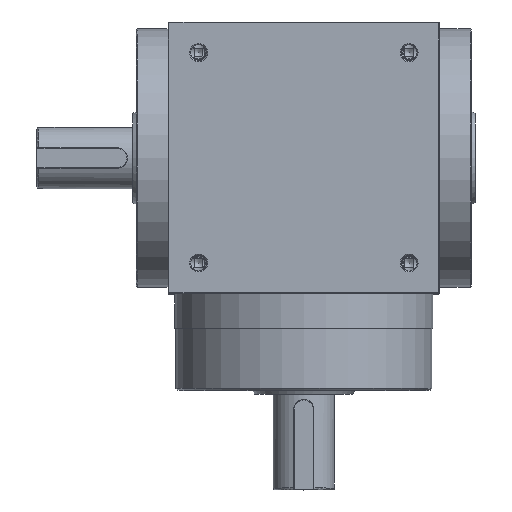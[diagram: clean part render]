
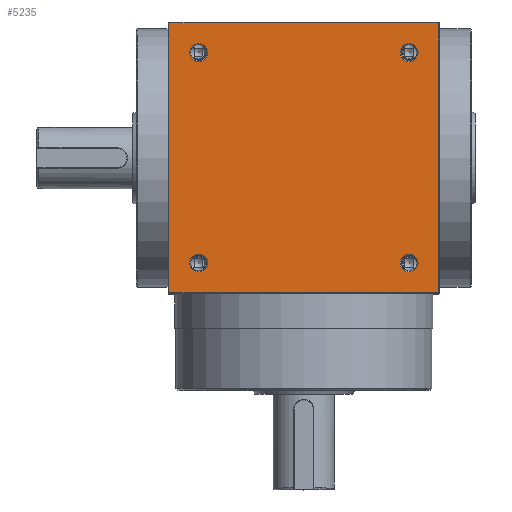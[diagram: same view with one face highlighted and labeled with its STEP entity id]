
A CAD part, top view. The second image highlights one B-rep face of the part: STEP entity #5235.
In plain terms, the highlighted planar face has unit normal (0, 0, 1).
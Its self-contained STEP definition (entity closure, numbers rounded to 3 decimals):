
#4999=CARTESIAN_POINT('',(70.5,-70.5,71.0));
#5000=VERTEX_POINT('',#4999);
#5007=CARTESIAN_POINT('',(-70.5,-70.5,71.0));
#5008=VERTEX_POINT('',#5007);
#5009=CARTESIAN_POINT('',(70.5,-70.5,71.0));
#5010=DIRECTION('',(-1.0,0.0,0.0));
#5011=VECTOR('',#5010,141.);
#5012=LINE('',#5009,#5011);
#5013=EDGE_CURVE('',#5000,#5008,#5012,.T.);
#5161=CARTESIAN_POINT('',(0.,0.,71.0));
#5162=DIRECTION('',(0.0,0.0,1.0));
#5163=DIRECTION('',(1.0,0.0,0.0));
#5164=AXIS2_PLACEMENT_3D('',#5161,#5162,#5163);
#5165=PLANE('',#5164);
#5166=ORIENTED_EDGE('',*,*,#5013,.F.);
#5167=CARTESIAN_POINT('',(70.5,70.5,71.0));
#5168=VERTEX_POINT('',#5167);
#5169=CARTESIAN_POINT('',(70.5,70.5,71.0));
#5170=DIRECTION('',(0.0,-1.0,0.0));
#5171=VECTOR('',#5170,141.0);
#5172=LINE('',#5169,#5171);
#5173=EDGE_CURVE('',#5168,#5000,#5172,.T.);
#5174=ORIENTED_EDGE('',*,*,#5173,.F.);
#5175=CARTESIAN_POINT('',(-70.5,70.5,71.0));
#5176=VERTEX_POINT('',#5175);
#5177=CARTESIAN_POINT('',(-70.5,70.5,71.0));
#5178=DIRECTION('',(1.0,0.0,0.0));
#5179=VECTOR('',#5178,141.0);
#5180=LINE('',#5177,#5179);
#5181=EDGE_CURVE('',#5176,#5168,#5180,.T.);
#5182=ORIENTED_EDGE('',*,*,#5181,.F.);
#5183=CARTESIAN_POINT('',(-70.5,-70.5,71.0));
#5184=DIRECTION('',(0.0,1.0,0.0));
#5185=VECTOR('',#5184,141.0);
#5186=LINE('',#5183,#5185);
#5187=EDGE_CURVE('',#5008,#5176,#5186,.T.);
#5188=ORIENTED_EDGE('',*,*,#5187,.F.);
#5189=EDGE_LOOP('',(#5166,#5174,#5182,#5188));
#5190=FACE_OUTER_BOUND('',#5189,.T.);
#5191=CARTESIAN_POINT('',(50.312,-55.,71.0));
#5192=VERTEX_POINT('',#5191);
#5193=CARTESIAN_POINT('',(55.,-55.,71.0));
#5194=DIRECTION('',(0.0,0.0,1.0));
#5195=DIRECTION('',(1.0,0.0,0.0));
#5196=AXIS2_PLACEMENT_3D('',#5193,#5194,#5195);
#5197=CIRCLE('',#5196,4.688);
#5198=EDGE_CURVE('',#5192,#5192,#5197,.T.);
#5199=ORIENTED_EDGE('',*,*,#5198,.F.);
#5200=EDGE_LOOP('',(#5199));
#5201=FACE_BOUND('',#5200,.T.);
#5202=CARTESIAN_POINT('',(-50.312,-55.0,71.0));
#5203=VERTEX_POINT('',#5202);
#5204=CARTESIAN_POINT('',(-55.,-55.0,71.0));
#5205=DIRECTION('',(0.0,0.0,1.0));
#5206=DIRECTION('',(-1.0,0.0,0.0));
#5207=AXIS2_PLACEMENT_3D('',#5204,#5205,#5206);
#5208=CIRCLE('',#5207,4.688);
#5209=EDGE_CURVE('',#5203,#5203,#5208,.T.);
#5210=ORIENTED_EDGE('',*,*,#5209,.F.);
#5211=EDGE_LOOP('',(#5210));
#5212=FACE_BOUND('',#5211,.T.);
#5213=CARTESIAN_POINT('',(-50.312,55.,71.0));
#5214=VERTEX_POINT('',#5213);
#5215=CARTESIAN_POINT('',(-55.,55.,71.0));
#5216=DIRECTION('',(0.0,0.0,1.0));
#5217=DIRECTION('',(-1.0,0.0,0.0));
#5218=AXIS2_PLACEMENT_3D('',#5215,#5216,#5217);
#5219=CIRCLE('',#5218,4.688);
#5220=EDGE_CURVE('',#5214,#5214,#5219,.T.);
#5221=ORIENTED_EDGE('',*,*,#5220,.F.);
#5222=EDGE_LOOP('',(#5221));
#5223=FACE_BOUND('',#5222,.T.);
#5224=CARTESIAN_POINT('',(50.312,55.,71.0));
#5225=VERTEX_POINT('',#5224);
#5226=CARTESIAN_POINT('',(55.0,55.,71.0));
#5227=DIRECTION('',(0.0,0.0,1.0));
#5228=DIRECTION('',(1.0,0.0,0.0));
#5229=AXIS2_PLACEMENT_3D('',#5226,#5227,#5228);
#5230=CIRCLE('',#5229,4.688);
#5231=EDGE_CURVE('',#5225,#5225,#5230,.T.);
#5232=ORIENTED_EDGE('',*,*,#5231,.F.);
#5233=EDGE_LOOP('',(#5232));
#5234=FACE_BOUND('',#5233,.T.);
#5235=ADVANCED_FACE('',(#5190,#5201,#5212,#5223,#5234),#5165,.T.);
